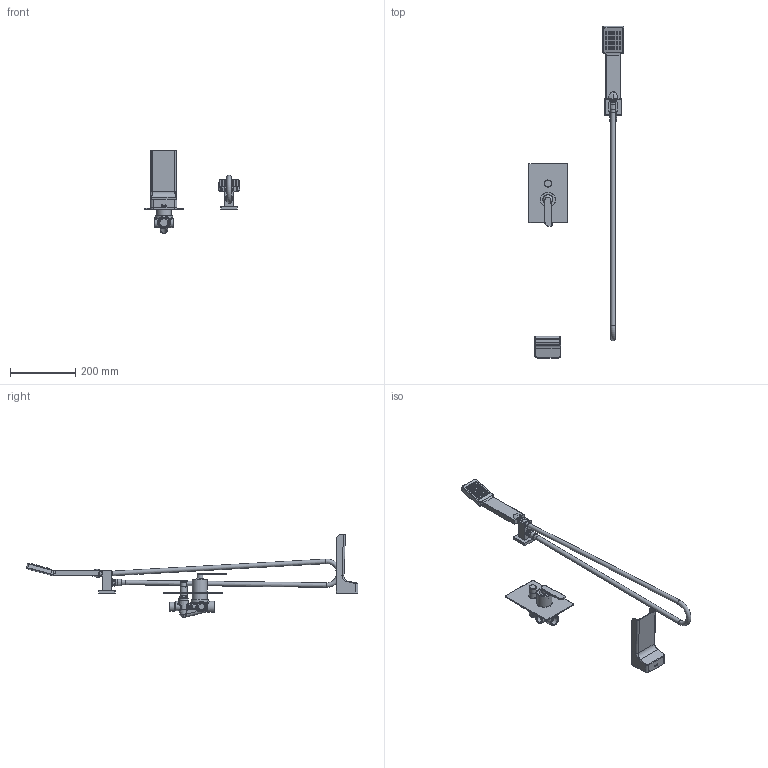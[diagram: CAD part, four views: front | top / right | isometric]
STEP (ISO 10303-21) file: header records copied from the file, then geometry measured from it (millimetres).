
FILE_DESCRIPTION(/* description */ (''),/* implementation_level */ '2;1');
FILE_NAME(/* name */ 'c:\worker\convert-fusion-r08\tmp\job-1\212\output\files\b8de8404-e3d2-4894-9391-8e08c4578ec0\3dd94836-061c-4d56-8c29-e093fbae68fe.stp',/* time_stamp */ '2019-11-20T14:13:21+00:00',/* author */ (''),/* organization */ (''),/* preprocessor_version */ 'ST-DEVELOPER v18',/* originating_system */ 'Autodesk Translation Framework v8.12.0.6',/* authorisation */ '');
FILE_SCHEMA (('AUTOMOTIVE_DESIGN { 1 0 10303 214 3 1 1 }'));
Products named in the file (5): !SYS CAW01; !WD CASCADE v2; !8876 v2; Wąż ok v1; !Angel-R v1
Assembly tree (4 placements, depth 2):
  !SYS CAW01
    !WD CASCADE v2
    !8876 v2
    Wąż ok v1
    !Angel-R v1
Bounding box: 292.22 x 1016.94 x 254.73 mm (x, y, z)
Volume: 961251.6 mm3; surface area: 295602.1 mm2
Topology: 23 solids, 23 shells, 2796 faces, 7359 edges, 4526 vertices
Faces by surface type: plane 1583, cylinder 685, sphere 220, bspline 195, torus 78, cone 35
Full cylindrical faces by diameter (mm): 1.8 x48, 4 x2, 4.2 x1, 5 x3, 5.2 x2, 6.4 x2, 8 x1, 14 x4, 14.2 x1, 16.7 x1, 16.938 x7, 18 x1, 18.3 x1, 19 x3, 19.791 x8, 20 x2, 21.5 x2, 22.1 x1, 23.5 x1, 24.9 x1, 26 x1, 28 x1, 29 x1, 30 x1, 34 x1, 46 x1, 46.5 x2, 50.2 x1, 53 x1, 53.5 x1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
Entity records: 112712 total; most frequent: CARTESIAN_POINT 44267, ORIENTED_EDGE 14296, DIRECTION 13672, EDGE_CURVE 7148, LINE 4908, VECTOR 4908, VERTEX_POINT 4526, AXIS2_PLACEMENT_3D 4382
